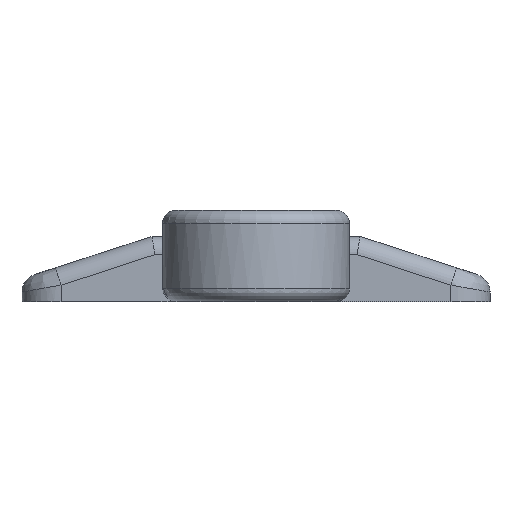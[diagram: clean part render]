
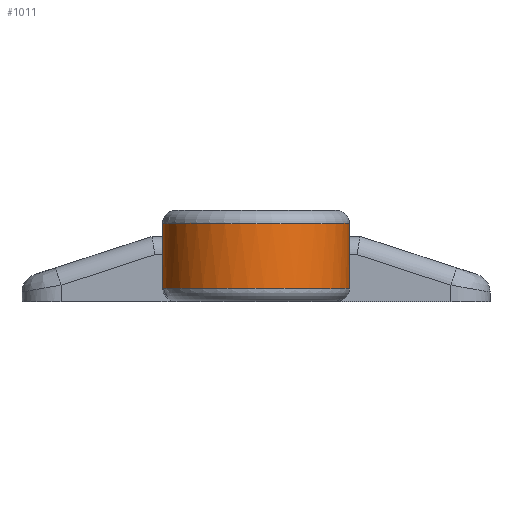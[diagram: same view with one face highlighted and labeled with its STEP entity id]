
A CAD part, left-side view. The second image highlights one B-rep face of the part: STEP entity #1011.
In plain terms, the highlighted cylindrical face has radius 7.2 mm (diameter 14.4 mm), a partial arc.
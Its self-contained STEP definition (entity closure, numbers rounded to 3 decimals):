
#89=B_SPLINE_CURVE_WITH_KNOTS('',3,(#1631,#1632,#1633,#1634,#1635,#1636,
#1637,#1638,#1639,#1640,#1641,#1642),.UNSPECIFIED.,.F.,.F.,(4,2,2,2,2,4),
(0.174,0.232,0.291,0.33,
0.349,0.368),.UNSPECIFIED.);
#90=B_SPLINE_CURVE_WITH_KNOTS('',3,(#1660,#1661,#1662,#1663,#1664,#1665,
#1666,#1667,#1668,#1669,#1670,#1671),.UNSPECIFIED.,.F.,.F.,(4,2,2,2,2,4),
(0.368,0.388,0.407,0.446,
0.504,0.563),.UNSPECIFIED.);
#114=FACE_OUTER_BOUND('',#180,.T.);
#180=EDGE_LOOP('',(#737,#738,#739,#740,#741,#742,#743));
#254=LINE('',#1697,#331);
#255=LINE('',#1699,#332);
#331=VECTOR('',#1318,10.);
#332=VECTOR('',#1321,10.);
#394=CIRCLE('',#1094,7.2);
#398=CIRCLE('',#1098,7.2);
#411=CIRCLE('',#1124,7.2);
#442=VERTEX_POINT('',#1572);
#443=VERTEX_POINT('',#1574);
#446=VERTEX_POINT('',#1580);
#454=VERTEX_POINT('',#1600);
#458=VERTEX_POINT('',#1630);
#462=VERTEX_POINT('',#1659);
#463=VERTEX_POINT('',#1675);
#531=EDGE_CURVE('',#442,#443,#394,.T.);
#535=EDGE_CURVE('',#446,#442,#398,.T.);
#552=EDGE_CURVE('',#458,#446,#89,.F.);
#562=EDGE_CURVE('',#443,#462,#90,.F.);
#568=EDGE_CURVE('',#454,#463,#411,.T.);
#570=EDGE_CURVE('',#463,#458,#254,.T.);
#571=EDGE_CURVE('',#454,#462,#255,.T.);
#737=ORIENTED_EDGE('',*,*,#535,.F.);
#738=ORIENTED_EDGE('',*,*,#552,.F.);
#739=ORIENTED_EDGE('',*,*,#570,.F.);
#740=ORIENTED_EDGE('',*,*,#568,.F.);
#741=ORIENTED_EDGE('',*,*,#571,.T.);
#742=ORIENTED_EDGE('',*,*,#562,.F.);
#743=ORIENTED_EDGE('',*,*,#531,.F.);
#974=CYLINDRICAL_SURFACE('',#1127,7.2);
#1011=ADVANCED_FACE('',(#114),#974,.T.);
#1094=AXIS2_PLACEMENT_3D('',#1575,#1236,#1237);
#1098=AXIS2_PLACEMENT_3D('',#1582,#1244,#1245);
#1124=AXIS2_PLACEMENT_3D('',#1694,#1312,#1313);
#1127=AXIS2_PLACEMENT_3D('',#1698,#1319,#1320);
#1236=DIRECTION('center_axis',(0.,0.,1.));
#1237=DIRECTION('ref_axis',(1.,0.,0.));
#1244=DIRECTION('center_axis',(0.,0.,1.));
#1245=DIRECTION('ref_axis',(1.,0.,0.));
#1312=DIRECTION('center_axis',(0.,0.,-1.));
#1313=DIRECTION('ref_axis',(-1.,0.,0.));
#1318=DIRECTION('',(0.,0.,1.));
#1319=DIRECTION('center_axis',(0.,0.,1.));
#1320=DIRECTION('ref_axis',(-1.,0.,0.));
#1321=DIRECTION('',(0.,0.,1.));
#1572=CARTESIAN_POINT('',(-24.2,0.,6.));
#1574=CARTESIAN_POINT('',(-11.819,-5.,6.));
#1575=CARTESIAN_POINT('Origin',(-17.,0.,6.));
#1580=CARTESIAN_POINT('',(-11.819,5.,6.));
#1582=CARTESIAN_POINT('Origin',(-17.,0.,6.));
#1600=CARTESIAN_POINT('',(-13.02,-6.,1.));
#1630=CARTESIAN_POINT('',(-13.02,6.,5.));
#1631=CARTESIAN_POINT('Ctrl Pts',(-11.819,5.,6.));
#1632=CARTESIAN_POINT('Ctrl Pts',(-11.955,5.14,6.));
#1633=CARTESIAN_POINT('Ctrl Pts',(-12.107,5.286,5.969));
#1634=CARTESIAN_POINT('Ctrl Pts',(-12.409,5.55,5.848));
#1635=CARTESIAN_POINT('Ctrl Pts',(-12.559,5.669,5.758));
#1636=CARTESIAN_POINT('Ctrl Pts',(-12.77,5.827,5.57));
#1637=CARTESIAN_POINT('Ctrl Pts',(-12.855,5.888,5.475));
#1638=CARTESIAN_POINT('Ctrl Pts',(-12.949,5.953,5.31));
#1639=CARTESIAN_POINT('Ctrl Pts',(-12.975,5.97,5.251));
#1640=CARTESIAN_POINT('Ctrl Pts',(-13.011,5.994,5.128));
#1641=CARTESIAN_POINT('Ctrl Pts',(-13.02,6.,5.064));
#1642=CARTESIAN_POINT('Ctrl Pts',(-13.02,6.,5.));
#1659=CARTESIAN_POINT('',(-13.02,-6.,5.));
#1660=CARTESIAN_POINT('Ctrl Pts',(-13.02,-6.,5.));
#1661=CARTESIAN_POINT('Ctrl Pts',(-13.02,-6.,5.064));
#1662=CARTESIAN_POINT('Ctrl Pts',(-13.011,-5.994,5.128));
#1663=CARTESIAN_POINT('Ctrl Pts',(-12.975,-5.97,5.251));
#1664=CARTESIAN_POINT('Ctrl Pts',(-12.949,-5.953,5.31));
#1665=CARTESIAN_POINT('Ctrl Pts',(-12.855,-5.888,5.475));
#1666=CARTESIAN_POINT('Ctrl Pts',(-12.77,-5.827,5.57));
#1667=CARTESIAN_POINT('Ctrl Pts',(-12.559,-5.669,5.758));
#1668=CARTESIAN_POINT('Ctrl Pts',(-12.409,-5.55,5.848));
#1669=CARTESIAN_POINT('Ctrl Pts',(-12.107,-5.286,5.969));
#1670=CARTESIAN_POINT('Ctrl Pts',(-11.955,-5.14,6.));
#1671=CARTESIAN_POINT('Ctrl Pts',(-11.819,-5.,6.));
#1675=CARTESIAN_POINT('',(-13.02,6.,1.));
#1694=CARTESIAN_POINT('Origin',(-17.,0.,1.));
#1697=CARTESIAN_POINT('',(-13.02,6.,0.));
#1698=CARTESIAN_POINT('Origin',(-17.,0.,0.));
#1699=CARTESIAN_POINT('',(-13.02,-6.,0.));
